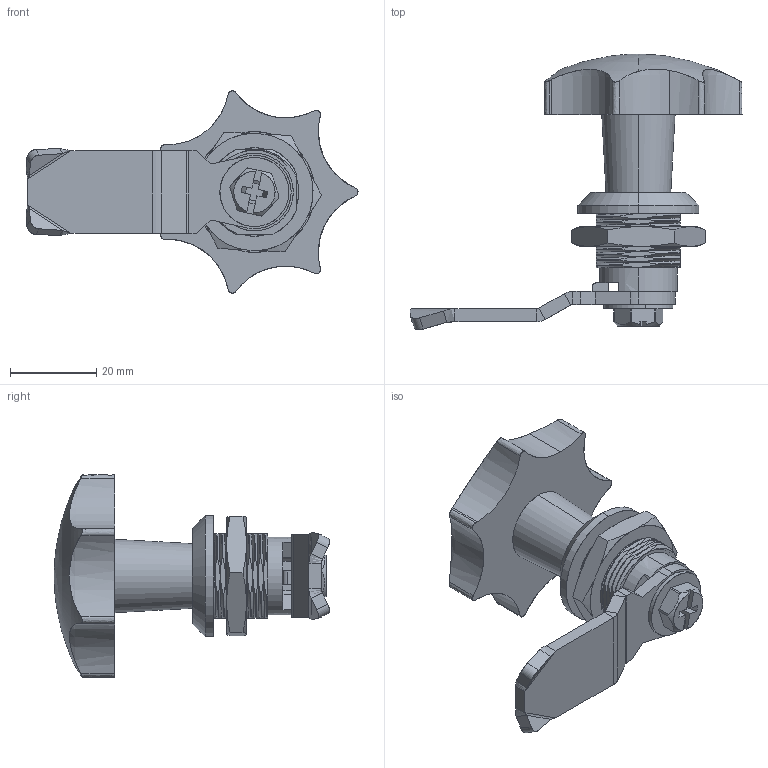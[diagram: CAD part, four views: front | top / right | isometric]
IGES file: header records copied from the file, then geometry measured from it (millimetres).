
Start section: SolidWorks IGES file using analytic representation for surfaces
Global section: file name: D:\尚坤工业图纸\SK1--门锁系列\SK1-097-1\SK1-097-1.IGS; native system: SolidWorks 2015; preprocessor: SolidWorks 2015; author: admin; date: 181101.105435; units: millimetre
Bounding box: 76.92 x 63.86 x 46.85 mm (x, y, z)
Surface area: 12827.3 mm2 (no closed solid volume)
Topology: 0 solids, 0 shells, 271 faces, 3564 edges, 3561 vertices
Faces by surface type: bspline 139, revolution 132
